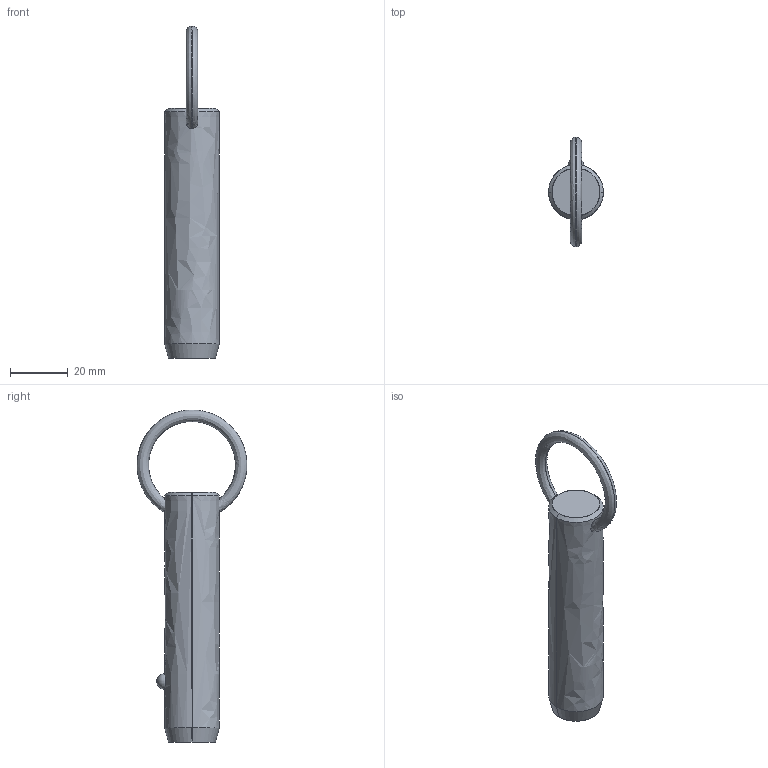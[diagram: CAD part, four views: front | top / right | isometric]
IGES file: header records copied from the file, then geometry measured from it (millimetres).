
Start section: SolidWorks IGES file using analytic representation for surfaces
Global section: file name: C:\Users\liam_\OneDrive\Documents\WORK\Work for WixRoyd\Job Files\J-00019 - Matt Davis CAD Checking\04. CAD Drawings\automotion20190605\P1250.2_v2\P1250.2_v2_20190729_IGES\P1250.075-210.igs; native system: SolidWorks 2017; preprocessor: SolidWorks 2017; author: liam_; date: 190729.234917; units: millimetre
Bounding box: 19 x 38.1 x 115.09 mm (x, y, z)
Surface area: 6696 mm2 (no closed solid volume)
Topology: 0 solids, 0 shells, 12 faces, 294 edges, 292 vertices
Faces by surface type: revolution 8, bspline 4
